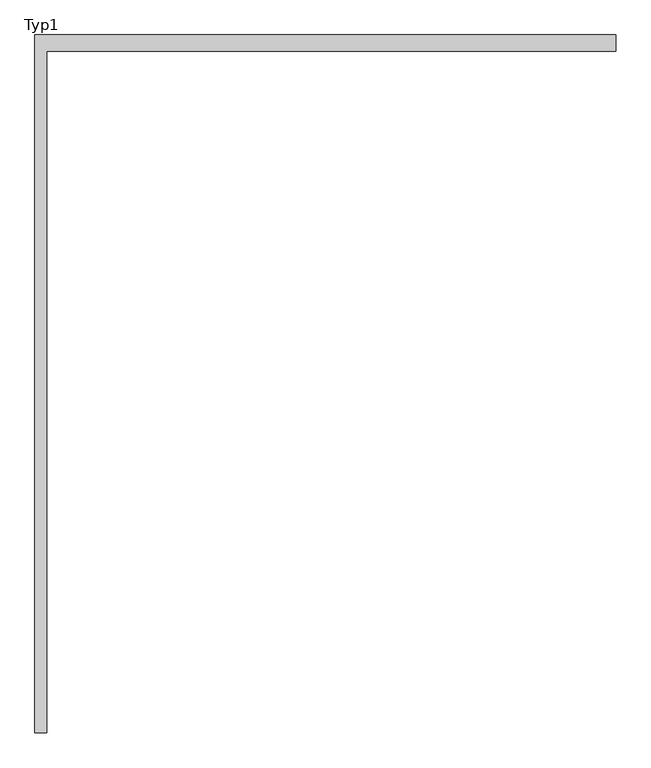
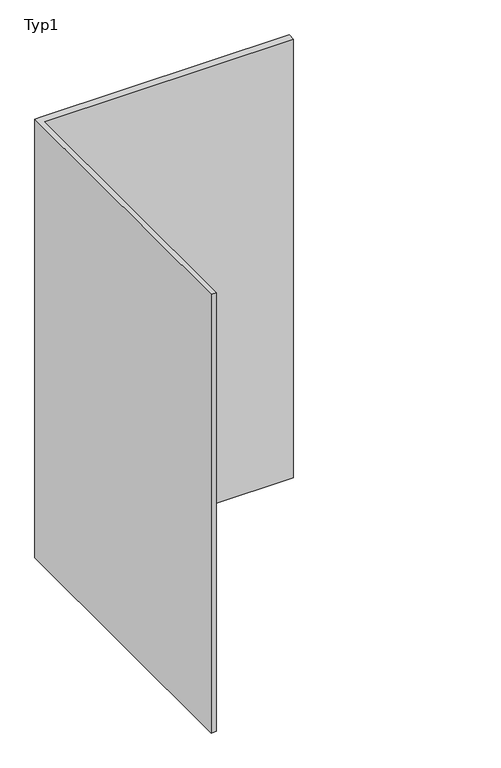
"""IFC4 building model written with IfcOpenShell, lengths in millimetres: furniture geometry, Šatní skříň : Typ1."""

from ifc_helpers import new_model, si_unit, frame, origin, place, context, project, spatial, polyline, outline, extrude, source, transform, mapped, element, save


def typ1_bfa0df0e(model_context):
    return source(origin(), model_context, "Body", "SweptSolid", [
        extrude(outline(polyline([(-7212.7155552, -2086.8406402), (-7183.3266822, -2086.8406402), (-5786.8266822, -2086.8406402), (-5786.8266822, -2126.8406402), (-7183.3266822, -2126.8406402), (-7183.3266822, -3798.2671527), (-7212.7155552, -3798.2671527), (-7212.7155552, -2086.8406402)])), frame((0.0, 0.0, 3000.0), z_axis=(0.0, 0.0, 1.0), x_axis=(1.0, 0.0, 0.0)), (0.0, 0.0, 1.0), 2600.0),
    ])


if __name__ == "__main__":
    model = new_model("IFC4")
    model_context = context("Model", 3, world=origin())
    ifc_project = project(units=[si_unit("LENGTHUNIT", "METRE", prefix="MILLI")], contexts=[model_context])
    site = spatial("IfcSite", under=ifc_project)
    building = spatial("IfcBuilding", under=site)
    placement = place(None, origin())
    typ1_shape = typ1_bfa0df0e(model_context)
    element("IfcFurniture", 1, ObjectType="Šatní skříň : Typ1", at=placement, inside=building, context=model_context, shape_type="MappedRepresentation", body=[
        mapped(typ1_shape, transform((0.0, 0.0, 0.0), x_axis=(1.0, 0.0, 0.0), y_axis=(0.0, 1.0, 0.0), z_axis=(0.0, 0.0, 1.0))),
    ])
    save(model, "model.ifc")
